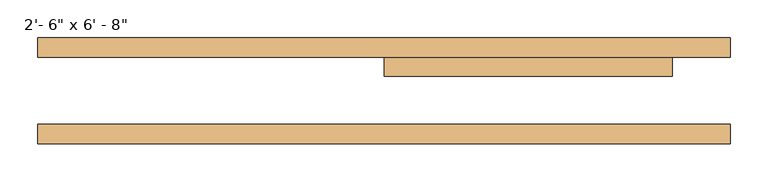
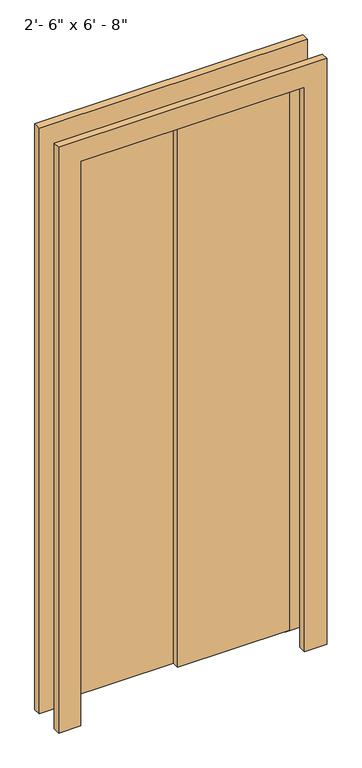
"""IFC4 building model written with IfcOpenShell, lengths in millimetres: door geometry."""

from ifc_helpers import new_model, si_unit, frame, origin, place, context, project, spatial, polyline, outline, extrude, source, transform, mapped, element, save


def door_3f50ce46(model_context):
    return source(origin(), model_context, "Body", "SweptSolid", [
        extrude(outline(polyline([(2032.0, -228.6), (2032.0, 533.4), (0.0, 533.4), (0.0, 609.6), (2108.2, 609.6), (2108.2, -304.8), (0.0, -304.8), (0.0, -228.6), (2032.0, -228.6)])), frame((0.0, -85.8124703, 0.0), z_axis=(0.0, 1.0, 0.0), x_axis=(0.0, 0.0, 1.0)), (0.0, 0.0, 1.0), 25.4),
        extrude(outline(polyline([(2032.0, -228.6), (2032.0, 533.4), (0.0, 533.4), (0.0, 609.6), (2108.2, 609.6), (2108.2, -304.8), (0.0, -304.8), (0.0, -228.6), (2032.0, -228.6)])), frame((0.0, 28.4875297, 0.0), z_axis=(0.0, 1.0, 0.0), x_axis=(0.0, 0.0, 1.0)), (0.0, 0.0, 1.0), 25.4),
        extrude(outline(polyline([(-228.6, 34.8375297), (152.4, 34.8375297), (152.4, 28.4875297), (-228.6, 28.4875297), (-228.6, 34.8375297)])), frame((0.0, 0.0, 22.225), z_axis=(0.0, 0.0, 1.0), x_axis=(1.0, 0.0, 0.0)), (0.0, 0.0, 1.0), 1993.9),
        extrude(outline(polyline([(152.4, 28.4875297), (533.4, 28.4875297), (533.4, 3.0875297), (152.4, 3.0875297), (152.4, 28.4875297)])), frame((0.0, 0.0, 22.225), z_axis=(0.0, 0.0, 1.0), x_axis=(1.0, 0.0, 0.0)), (0.0, 0.0, 1.0), 1993.9),
    ])


if __name__ == "__main__":
    model = new_model("IFC4")
    model_context = context("Model", 3, world=origin())
    ifc_project = project(units=[si_unit("LENGTHUNIT", "METRE", prefix="MILLI")], contexts=[model_context])
    site = spatial("IfcSite", under=ifc_project)
    building = spatial("IfcBuilding", under=site)
    placement = place(None, origin())
    door_shape = door_3f50ce46(model_context)
    element("IfcDoor", 1, ObjectType="Door-Bifold_2-Panel_Flush_SlimFold_Dunbarton : 2'- 6\" x 6' - 8\"", at=placement, inside=building, context=model_context, shape_type="MappedRepresentation", body=[
        mapped(door_shape, transform((0.0, 0.0, 0.0), x_axis=(1.0, 0.0, 0.0), y_axis=(0.0, 1.0, 0.0), z_axis=(0.0, 0.0, 1.0))),
    ])
    save(model, "model.ifc")
